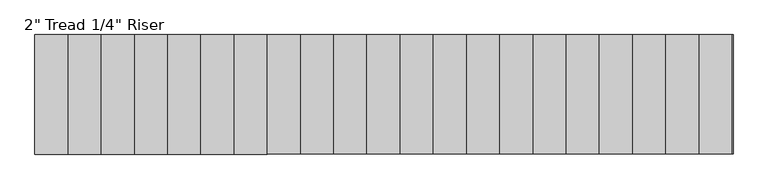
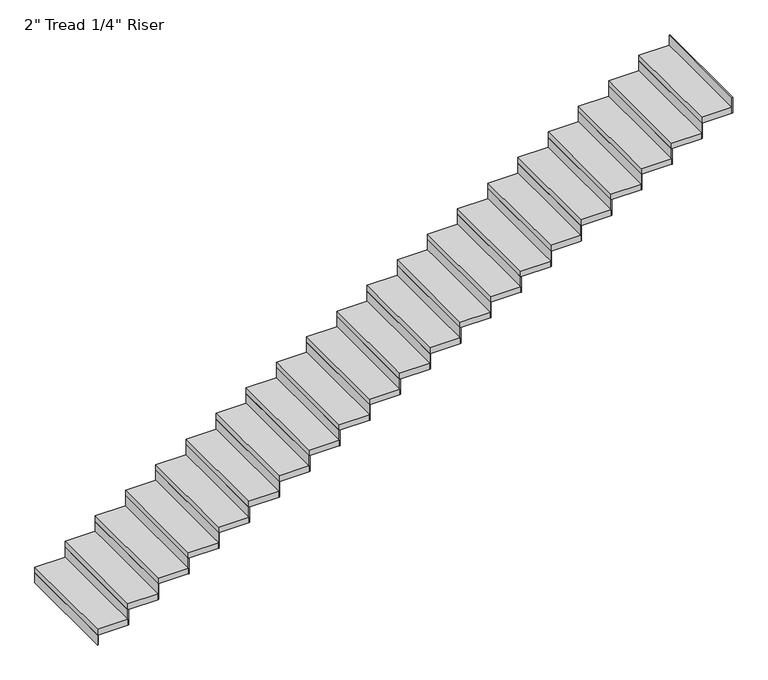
"""IFC4 building model written with IfcOpenShell, lengths in millimetres: stair flight geometry."""

from ifc_helpers import new_model, si_unit, frame, origin, origin_with_axes, place, context, project, spatial, polyline, outline, extrude, source, transform, mapped, element, save


def stair_flight_8de542de(model_context):
    return source(origin(), model_context, "Body", "SweptSolid", [
        extrude(outline(polyline([(-14491.9069957, -18868.6990002), (-14498.2569957, -18868.6990002), (-14498.2569957, -17954.2990002), (-14491.9069957, -17954.2990002), (-14491.9069957, -18868.6990002)])), origin_with_axes(), (0.0, 0.0, 1.0), 87.7454545),
        extrude(outline(polyline([(-14244.2569957, -17954.2990002), (-14244.2569957, -18868.6990002), (-14498.2569957, -18868.6990002), (-14498.2569957, -17954.2990002), (-14244.2569957, -17954.2990002)])), frame((0.0, 0.0, 87.7454545), z_axis=(0.0, 0.0, 1.0), x_axis=(1.0, 0.0, 0.0)), (0.0, 0.0, 1.0), 50.8),
        extrude(outline(polyline([(-14237.9069957, -18868.6990002), (-14244.2569957, -18868.6990002), (-14244.2569957, -17954.2990002), (-14237.9069957, -17954.2990002), (-14237.9069957, -18868.6990002)])), frame((0.0, 0.0, 87.7454545), z_axis=(0.0, 0.0, 1.0), x_axis=(1.0, 0.0, 0.0)), (0.0, 0.0, 1.0), 138.5454545),
        extrude(outline(polyline([(-13990.2569957, -17954.2990002), (-13990.2569957, -18868.6990002), (-14244.2569957, -18868.6990002), (-14244.2569957, -17954.2990002), (-13990.2569957, -17954.2990002)])), frame((0.0, 0.0, 226.2909091), z_axis=(0.0, 0.0, 1.0), x_axis=(1.0, 0.0, 0.0)), (0.0, 0.0, 1.0), 50.8),
        extrude(outline(polyline([(-13983.9069957, -18868.6990002), (-13990.2569957, -18868.6990002), (-13990.2569957, -17954.2990002), (-13983.9069957, -17954.2990002), (-13983.9069957, -18868.6990002)])), frame((0.0, 0.0, 226.2909091), z_axis=(0.0, 0.0, 1.0), x_axis=(1.0, 0.0, 0.0)), (0.0, 0.0, 1.0), 138.5454545),
        extrude(outline(polyline([(-13736.2569957, -17954.2990002), (-13736.2569957, -18868.6990002), (-13990.2569957, -18868.6990002), (-13990.2569957, -17954.2990002), (-13736.2569957, -17954.2990002)])), frame((0.0, 0.0, 364.8363636), z_axis=(0.0, 0.0, 1.0), x_axis=(1.0, 0.0, 0.0)), (0.0, 0.0, 1.0), 50.8),
        extrude(outline(polyline([(-13729.9069957, -18868.6990002), (-13736.2569957, -18868.6990002), (-13736.2569957, -17954.2990002), (-13729.9069957, -17954.2990002), (-13729.9069957, -18868.6990002)])), frame((0.0, 0.0, 364.8363636), z_axis=(0.0, 0.0, 1.0), x_axis=(1.0, 0.0, 0.0)), (0.0, 0.0, 1.0), 138.5454545),
        extrude(outline(polyline([(-13482.2569957, -17954.2990002), (-13482.2569957, -18868.6990002), (-13736.2569957, -18868.6990002), (-13736.2569957, -17954.2990002), (-13482.2569957, -17954.2990002)])), frame((0.0, 0.0, 503.3818182), z_axis=(0.0, 0.0, 1.0), x_axis=(1.0, 0.0, 0.0)), (0.0, 0.0, 1.0), 50.8),
        extrude(outline(polyline([(-13475.9069957, -18868.6990002), (-13482.2569957, -18868.6990002), (-13482.2569957, -17954.2990002), (-13475.9069957, -17954.2990002), (-13475.9069957, -18868.6990002)])), frame((0.0, 0.0, 503.3818182), z_axis=(0.0, 0.0, 1.0), x_axis=(1.0, 0.0, 0.0)), (0.0, 0.0, 1.0), 138.5454545),
        extrude(outline(polyline([(-13228.2569957, -17954.2990002), (-13228.2569957, -18868.6990002), (-13482.2569957, -18868.6990002), (-13482.2569957, -17954.2990002), (-13228.2569957, -17954.2990002)])), frame((0.0, 0.0, 641.9272727), z_axis=(0.0, 0.0, 1.0), x_axis=(1.0, 0.0, 0.0)), (0.0, 0.0, 1.0), 50.8),
        extrude(outline(polyline([(-13221.9069957, -18868.6990002), (-13228.2569957, -18868.6990002), (-13228.2569957, -17954.2990002), (-13221.9069957, -17954.2990002), (-13221.9069957, -18868.6990002)])), frame((0.0, 0.0, 641.9272727), z_axis=(0.0, 0.0, 1.0), x_axis=(1.0, 0.0, 0.0)), (0.0, 0.0, 1.0), 138.5454545),
        extrude(outline(polyline([(-12974.2569957, -17954.2990002), (-12974.2569957, -18868.6990002), (-13228.2569957, -18868.6990002), (-13228.2569957, -17954.2990002), (-12974.2569957, -17954.2990002)])), frame((0.0, 0.0, 780.4727273), z_axis=(0.0, 0.0, 1.0), x_axis=(1.0, 0.0, 0.0)), (0.0, 0.0, 1.0), 50.8),
        extrude(outline(polyline([(-12967.9069957, -18868.6990002), (-12974.2569957, -18868.6990002), (-12974.2569957, -17954.2990002), (-12967.9069957, -17954.2990002), (-12967.9069957, -18868.6990002)])), frame((0.0, 0.0, 780.4727273), z_axis=(0.0, 0.0, 1.0), x_axis=(1.0, 0.0, 0.0)), (0.0, 0.0, 1.0), 138.5454545),
        extrude(outline(polyline([(-12720.2569957, -17954.2990002), (-12720.2569957, -18868.6990002), (-12974.2569957, -18868.6990002), (-12974.2569957, -17954.2990002), (-12720.2569957, -17954.2990002)])), frame((0.0, 0.0, 919.0181818), z_axis=(0.0, 0.0, 1.0), x_axis=(1.0, 0.0, 0.0)), (0.0, 0.0, 1.0), 50.8),
        extrude(outline(polyline([(-12713.9069957, -18868.6990002), (-12720.2569957, -18868.6990002), (-12720.2569957, -17954.2990002), (-12713.9069957, -17954.2990002), (-12713.9069957, -18868.6990002)])), frame((0.0, 0.0, 919.0181818), z_axis=(0.0, 0.0, 1.0), x_axis=(1.0, 0.0, 0.0)), (0.0, 0.0, 1.0), 138.5454545),
        extrude(outline(polyline([(-12466.2569957, -17954.2990002), (-12466.2569957, -18868.6990002), (-12720.2569957, -18868.6990002), (-12720.2569957, -17954.2990002), (-12466.2569957, -17954.2990002)])), frame((0.0, 0.0, 1057.5636364), z_axis=(0.0, 0.0, 1.0), x_axis=(1.0, 0.0, 0.0)), (0.0, 0.0, 1.0), 50.8),
        extrude(outline(polyline([(-12459.9069957, -18868.6990002), (-12466.2569957, -18868.6990002), (-12466.2569957, -17954.2990002), (-12459.9069957, -17954.2990002), (-12459.9069957, -18868.6990002)])), frame((0.0, 0.0, 1057.5636364), z_axis=(0.0, 0.0, 1.0), x_axis=(1.0, 0.0, 0.0)), (0.0, 0.0, 1.0), 138.5454545),
        extrude(outline(polyline([(-12212.2569957, -17954.2990002), (-12212.2569957, -18868.6990002), (-12466.2569957, -18868.6990002), (-12466.2569957, -17954.2990002), (-12212.2569957, -17954.2990002)])), frame((0.0, 0.0, 1196.1090909), z_axis=(0.0, 0.0, 1.0), x_axis=(1.0, 0.0, 0.0)), (0.0, 0.0, 1.0), 50.8),
        extrude(outline(polyline([(-12205.9069957, -18868.6990002), (-12212.2569957, -18868.6990002), (-12212.2569957, -17954.2990002), (-12205.9069957, -17954.2990002), (-12205.9069957, -18868.6990002)])), frame((0.0, 0.0, 1196.1090909), z_axis=(0.0, 0.0, 1.0), x_axis=(1.0, 0.0, 0.0)), (0.0, 0.0, 1.0), 138.5454545),
        extrude(outline(polyline([(-11958.2569957, -17954.2990002), (-11958.2569957, -18868.6990002), (-12212.2569957, -18868.6990002), (-12212.2569957, -17954.2990002), (-11958.2569957, -17954.2990002)])), frame((0.0, 0.0, 1334.6545455), z_axis=(0.0, 0.0, 1.0), x_axis=(1.0, 0.0, 0.0)), (0.0, 0.0, 1.0), 50.8),
        extrude(outline(polyline([(-11951.9069957, -18868.6990002), (-11958.2569957, -18868.6990002), (-11958.2569957, -17954.2990002), (-11951.9069957, -17954.2990002), (-11951.9069957, -18868.6990002)])), frame((0.0, 0.0, 1334.6545455), z_axis=(0.0, 0.0, 1.0), x_axis=(1.0, 0.0, 0.0)), (0.0, 0.0, 1.0), 138.5454545),
        extrude(outline(polyline([(-11704.2569957, -17954.2990002), (-11704.2569957, -18868.6990002), (-11958.2569957, -18868.6990002), (-11958.2569957, -17954.2990002), (-11704.2569957, -17954.2990002)])), frame((0.0, 0.0, 1473.2), z_axis=(0.0, 0.0, 1.0), x_axis=(1.0, 0.0, 0.0)), (0.0, 0.0, 1.0), 50.8),
        extrude(outline(polyline([(-11697.9069957, -18868.6990002), (-11704.2569957, -18868.6990002), (-11704.2569957, -17954.2990002), (-11697.9069957, -17954.2990002), (-11697.9069957, -18868.6990002)])), frame((0.0, 0.0, 1473.2), z_axis=(0.0, 0.0, 1.0), x_axis=(1.0, 0.0, 0.0)), (0.0, 0.0, 1.0), 138.5454545),
        extrude(outline(polyline([(-11450.2569957, -17954.2990002), (-11450.2569957, -18868.6990002), (-11704.2569957, -18868.6990002), (-11704.2569957, -17954.2990002), (-11450.2569957, -17954.2990002)])), frame((0.0, 0.0, 1611.7454545), z_axis=(0.0, 0.0, 1.0), x_axis=(1.0, 0.0, 0.0)), (0.0, 0.0, 1.0), 50.8),
        extrude(outline(polyline([(-11443.9069957, -18868.6990002), (-11450.2569957, -18868.6990002), (-11450.2569957, -17954.2990002), (-11443.9069957, -17954.2990002), (-11443.9069957, -18868.6990002)])), frame((0.0, 0.0, 1611.7454545), z_axis=(0.0, 0.0, 1.0), x_axis=(1.0, 0.0, 0.0)), (0.0, 0.0, 1.0), 138.5454545),
        extrude(outline(polyline([(-11196.2569957, -17954.2990002), (-11196.2569957, -18868.6990002), (-11450.2569957, -18868.6990002), (-11450.2569957, -17954.2990002), (-11196.2569957, -17954.2990002)])), frame((0.0, 0.0, 1750.2909091), z_axis=(0.0, 0.0, 1.0), x_axis=(1.0, 0.0, 0.0)), (0.0, 0.0, 1.0), 50.8),
        extrude(outline(polyline([(-11189.9069957, -18868.6990002), (-11196.2569957, -18868.6990002), (-11196.2569957, -17954.2990002), (-11189.9069957, -17954.2990002), (-11189.9069957, -18868.6990002)])), frame((0.0, 0.0, 1750.2909091), z_axis=(0.0, 0.0, 1.0), x_axis=(1.0, 0.0, 0.0)), (0.0, 0.0, 1.0), 138.5454545),
        extrude(outline(polyline([(-10942.2569957, -17954.2990002), (-10942.2569957, -18868.6990002), (-11196.2569957, -18868.6990002), (-11196.2569957, -17954.2990002), (-10942.2569957, -17954.2990002)])), frame((0.0, 0.0, 1888.8363636), z_axis=(0.0, 0.0, 1.0), x_axis=(1.0, 0.0, 0.0)), (0.0, 0.0, 1.0), 50.8),
        extrude(outline(polyline([(-10935.9069957, -18868.6990002), (-10942.2569957, -18868.6990002), (-10942.2569957, -17954.2990002), (-10935.9069957, -17954.2990002), (-10935.9069957, -18868.6990002)])), frame((0.0, 0.0, 1888.8363636), z_axis=(0.0, 0.0, 1.0), x_axis=(1.0, 0.0, 0.0)), (0.0, 0.0, 1.0), 138.5454545),
        extrude(outline(polyline([(-10688.2569957, -17954.2990002), (-10688.2569957, -18868.6990002), (-10942.2569957, -18868.6990002), (-10942.2569957, -17954.2990002), (-10688.2569957, -17954.2990002)])), frame((0.0, 0.0, 2027.3818182), z_axis=(0.0, 0.0, 1.0), x_axis=(1.0, 0.0, 0.0)), (0.0, 0.0, 1.0), 50.8),
        extrude(outline(polyline([(-10681.9069957, -18868.6990002), (-10688.2569957, -18868.6990002), (-10688.2569957, -17954.2990002), (-10681.9069957, -17954.2990002), (-10681.9069957, -18868.6990002)])), frame((0.0, 0.0, 2027.3818182), z_axis=(0.0, 0.0, 1.0), x_axis=(1.0, 0.0, 0.0)), (0.0, 0.0, 1.0), 138.5454545),
        extrude(outline(polyline([(-10434.2569957, -17954.2990002), (-10434.2569957, -18868.6990002), (-10688.2569957, -18868.6990002), (-10688.2569957, -17954.2990002), (-10434.2569957, -17954.2990002)])), frame((0.0, 0.0, 2165.9272727), z_axis=(0.0, 0.0, 1.0), x_axis=(1.0, 0.0, 0.0)), (0.0, 0.0, 1.0), 50.8),
        extrude(outline(polyline([(-10427.9069957, -18868.6990002), (-10434.2569957, -18868.6990002), (-10434.2569957, -17954.2990002), (-10427.9069957, -17954.2990002), (-10427.9069957, -18868.6990002)])), frame((0.0, 0.0, 2165.9272727), z_axis=(0.0, 0.0, 1.0), x_axis=(1.0, 0.0, 0.0)), (0.0, 0.0, 1.0), 138.5454545),
        extrude(outline(polyline([(-10180.2569957, -17954.2990002), (-10180.2569957, -18868.6990002), (-10434.2569957, -18868.6990002), (-10434.2569957, -17954.2990002), (-10180.2569957, -17954.2990002)])), frame((0.0, 0.0, 2304.4727273), z_axis=(0.0, 0.0, 1.0), x_axis=(1.0, 0.0, 0.0)), (0.0, 0.0, 1.0), 50.8),
        extrude(outline(polyline([(-10173.9069957, -18868.6990002), (-10180.2569957, -18868.6990002), (-10180.2569957, -17954.2990002), (-10173.9069957, -17954.2990002), (-10173.9069957, -18868.6990002)])), frame((0.0, 0.0, 2304.4727273), z_axis=(0.0, 0.0, 1.0), x_axis=(1.0, 0.0, 0.0)), (0.0, 0.0, 1.0), 138.5454545),
        extrude(outline(polyline([(-9926.2569957, -17954.2990002), (-9926.2569957, -18868.6990002), (-10180.2569957, -18868.6990002), (-10180.2569957, -17954.2990002), (-9926.2569957, -17954.2990002)])), frame((0.0, 0.0, 2443.0181818), z_axis=(0.0, 0.0, 1.0), x_axis=(1.0, 0.0, 0.0)), (0.0, 0.0, 1.0), 50.8),
        extrude(outline(polyline([(-9919.9069957, -18868.6990002), (-9926.2569957, -18868.6990002), (-9926.2569957, -17954.2990002), (-9919.9069957, -17954.2990002), (-9919.9069957, -18868.6990002)])), frame((0.0, 0.0, 2443.0181818), z_axis=(0.0, 0.0, 1.0), x_axis=(1.0, 0.0, 0.0)), (0.0, 0.0, 1.0), 138.5454545),
        extrude(outline(polyline([(-9672.2569957, -17954.2990002), (-9672.2569957, -18868.6990002), (-9926.2569957, -18868.6990002), (-9926.2569957, -17954.2990002), (-9672.2569957, -17954.2990002)])), frame((0.0, 0.0, 2581.5636364), z_axis=(0.0, 0.0, 1.0), x_axis=(1.0, 0.0, 0.0)), (0.0, 0.0, 1.0), 50.8),
        extrude(outline(polyline([(-9665.9069957, -18868.6990002), (-9672.2569957, -18868.6990002), (-9672.2569957, -17954.2990002), (-9665.9069957, -17954.2990002), (-9665.9069957, -18868.6990002)])), frame((0.0, 0.0, 2581.5636364), z_axis=(0.0, 0.0, 1.0), x_axis=(1.0, 0.0, 0.0)), (0.0, 0.0, 1.0), 138.5454545),
        extrude(outline(polyline([(-9418.2569957, -17954.2990002), (-9418.2569957, -18868.6990002), (-9672.2569957, -18868.6990002), (-9672.2569957, -17954.2990002), (-9418.2569957, -17954.2990002)])), frame((0.0, 0.0, 2720.1090909), z_axis=(0.0, 0.0, 1.0), x_axis=(1.0, 0.0, 0.0)), (0.0, 0.0, 1.0), 50.8),
        extrude(outline(polyline([(-9411.9069957, -18868.6990002), (-9418.2569957, -18868.6990002), (-9418.2569957, -17954.2990002), (-9411.9069957, -17954.2990002), (-9411.9069957, -18868.6990002)])), frame((0.0, 0.0, 2720.1090909), z_axis=(0.0, 0.0, 1.0), x_axis=(1.0, 0.0, 0.0)), (0.0, 0.0, 1.0), 138.5454545),
        extrude(outline(polyline([(-9157.9069957, -18868.6990002), (-9164.2569957, -18868.6990002), (-9164.2569957, -17954.2990002), (-9157.9069957, -17954.2990002), (-9157.9069957, -18868.6990002)])), frame((0.0, 0.0, 2858.6545455), z_axis=(0.0, 0.0, 1.0), x_axis=(1.0, 0.0, 0.0)), (0.0, 0.0, 1.0), 138.5454545),
        extrude(outline(polyline([(-9164.2569957, -17954.2990002), (-9164.2569957, -18868.6990002), (-9418.2569957, -18868.6990002), (-9418.2569957, -17954.2990002), (-9164.2569957, -17954.2990002)])), frame((0.0, 0.0, 2858.6545455), z_axis=(0.0, 0.0, 1.0), x_axis=(1.0, 0.0, 0.0)), (0.0, 0.0, 1.0), 50.8),
    ])


if __name__ == "__main__":
    model = new_model("IFC4")
    model_context = context("Model", 3, world=origin())
    ifc_project = project(units=[si_unit("LENGTHUNIT", "METRE", prefix="MILLI")], contexts=[model_context])
    site = spatial("IfcSite", under=ifc_project)
    building = spatial("IfcBuilding", under=site)
    placement = place(None, origin())
    stair_flight_shape = stair_flight_8de542de(model_context)
    element("IfcStairFlight", 1, ObjectType="2\" Tread 1/4\" Riser", at=placement, inside=building, context=model_context, shape_type="MappedRepresentation", body=[
        mapped(stair_flight_shape, transform((0.0, 0.0, 0.0), x_axis=(1.0, 0.0, 0.0), y_axis=(0.0, 1.0, 0.0), z_axis=(0.0, 0.0, 1.0))),
    ])
    save(model, "model.ifc")
